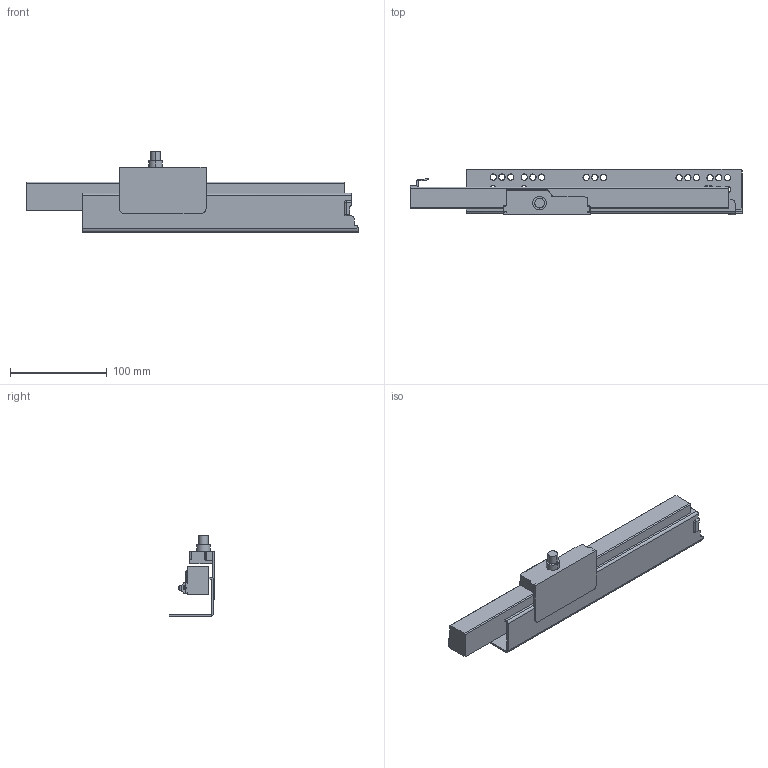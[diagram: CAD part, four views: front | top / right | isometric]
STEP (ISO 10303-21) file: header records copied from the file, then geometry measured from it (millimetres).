
FILE_DESCRIPTION (( 'STEP AP203' ), '1' );
FILE_NAME ('HT403504H-R.STEP', '2019-07-08T06:09:32', ( 'ww' ), ( 'Microsoft' ), 'SwSTEP 2.0', 'SolidWorks 2012', '' );
FILE_SCHEMA (( 'CONFIG_CONTROL_DESIGN' ));
Length unit declared in the file: millimetre
Products named in the file (1): HT403504H-R
Bounding box: 343 x 47.5 x 83.33 mm (x, y, z)
Volume: 284662 mm3; surface area: 93783 mm2
Topology: 1 solids, 4 shells, 407 faces, 1088 edges, 695 vertices
Faces by surface type: cylinder 153, plane 141, torus 46, cone 40, bspline 23, sphere 4
Entity records: 14872 total; most frequent: CARTESIAN_POINT 4698, ORIENTED_EDGE 2164, DIRECTION 2040, EDGE_CURVE 1082, AXIS2_PLACEMENT_3D 736, VERTEX_POINT 695, LINE 568, VECTOR 568
